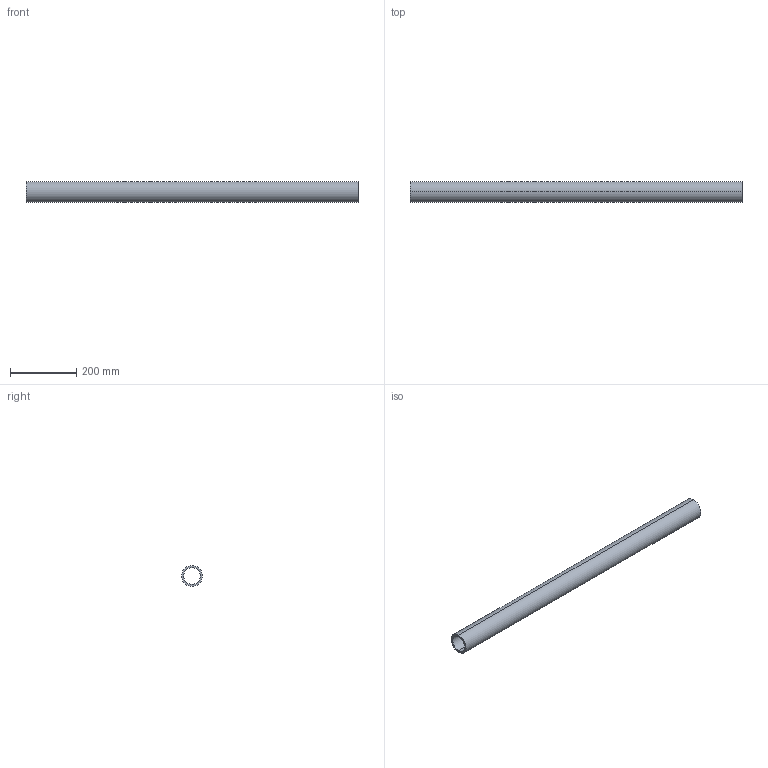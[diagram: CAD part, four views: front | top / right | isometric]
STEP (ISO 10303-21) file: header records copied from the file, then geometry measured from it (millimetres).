
FILE_DESCRIPTION (( 'STEP AP203' ), '1' );
FILE_NAME ('KP_63EC6.step', '2011-08-08T11:50:39', ( '' ), ( '' ), 'SwSTEP 2.0', 'SolidWorks 2011', '' );
FILE_SCHEMA (( 'CONFIG_CONTROL_DESIGN' ));
Length unit declared in the file: millimetre
Products named in the file (1): KP_63EC6
Bounding box: 1000 x 63.25 x 63.25 mm (x, y, z)
Volume: 1107217 mm3; surface area: 360827.2 mm2
Topology: 1 solids, 1 shells, 6 faces, 12 edges, 8 vertices
Faces by surface type: cylinder 4, plane 2
Entity records: 245 total; most frequent: DIRECTION 34, CARTESIAN_POINT 27, ORIENTED_EDGE 24, AXIS2_PLACEMENT_3D 15, EDGE_CURVE 12, PERSON_AND_ORGANIZATION 8, VERTEX_POINT 8, EDGE_LOOP 8
